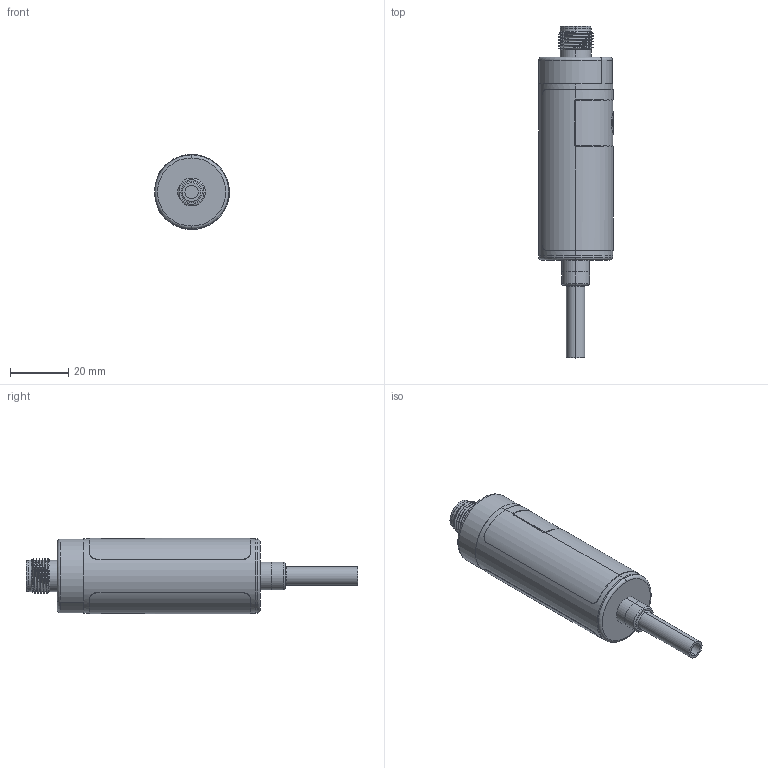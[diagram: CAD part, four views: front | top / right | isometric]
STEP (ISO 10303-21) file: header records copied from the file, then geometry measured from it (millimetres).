
FILE_DESCRIPTION (( 'STEP AP214' ), '1' );
FILE_NAME ('GSD-XXXXXX-Q-XXX-4S.STEP', '2025-06-23T15:27:33', ( '' ), ( '' ), 'SwSTEP 2.0', 'SolidWorks 2023', '' );
FILE_SCHEMA (( 'AUTOMOTIVE_DESIGN' ));
Length unit declared in the file: inch
Products named in the file (4): GSx Body_Integrated Connector; GS 2; 318Z142; GSD-XXXXXX-Q-XXX-4S
Assembly tree (3 placements, depth 2):
  GSD-XXXXXX-Q-XXX-4S
    GSx Body_Integrated Connector
    GS 2
    318Z142
Bounding box: 25.65 x 113.93 x 25.76 mm (x, y, z)
Volume: 12357.4 mm3; surface area: 14595.1 mm2
Topology: 4 solids, 4 shells, 212 faces, 522 edges, 331 vertices
Faces by surface type: cylinder 78, plane 61, bspline 41, cone 18, torus 14
Entity records: 10983 total; most frequent: CARTESIAN_POINT 6154, ORIENTED_EDGE 1028, DIRECTION 900, EDGE_CURVE 514, AXIS2_PLACEMENT_3D 371, VERTEX_POINT 331, EDGE_LOOP 239, ADVANCED_FACE 212
